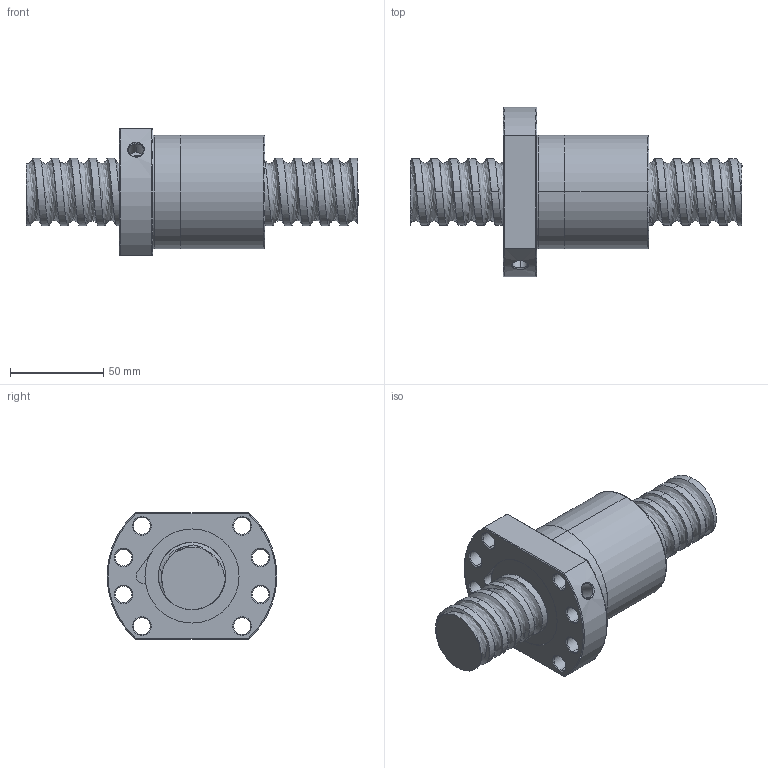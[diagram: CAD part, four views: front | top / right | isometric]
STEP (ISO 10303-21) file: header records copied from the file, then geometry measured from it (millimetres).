
FILE_DESCRIPTION (( 'STEP AP214' ), '1' );
FILE_NAME ('FSDC03610T5-F-C.STEP', '2010-06-25T12:00:25', ( 'XPAUTO' ), ( 'XPAUTO' ), 'SwSTEP 2.0', 'SolidWorks 2007', '' );
FILE_SCHEMA (( 'AUTOMOTIVE_DESIGN' ));
Length unit declared in the file: millimetre
Products named in the file (3): FSDC03610T5-F-C.sldasm-Part-2_預設; FSDC03610T5-F-C.sldasm-Part-1_預設; FSDC03610T5-F-C
Assembly tree (2 placements, depth 2):
  FSDC03610T5-F-C
    FSDC03610T5-F-C.sldasm-Part-2_預設
    FSDC03610T5-F-C.sldasm-Part-1_預設
Bounding box: 178 x 91 x 68 mm (x, y, z)
Volume: 343417.3 mm3; surface area: 63817.6 mm2
Topology: 2 solids, 2 shells, 143 faces, 355 edges, 221 vertices
Faces by surface type: cylinder 78, cone 32, plane 22, torus 6, bspline 5
Entity records: 26542 total; most frequent: CARTESIAN_POINT 23144, ORIENTED_EDGE 710, DIRECTION 663, EDGE_CURVE 355, AXIS2_PLACEMENT_3D 268, VERTEX_POINT 221, EDGE_LOOP 168, ADVANCED_FACE 143
